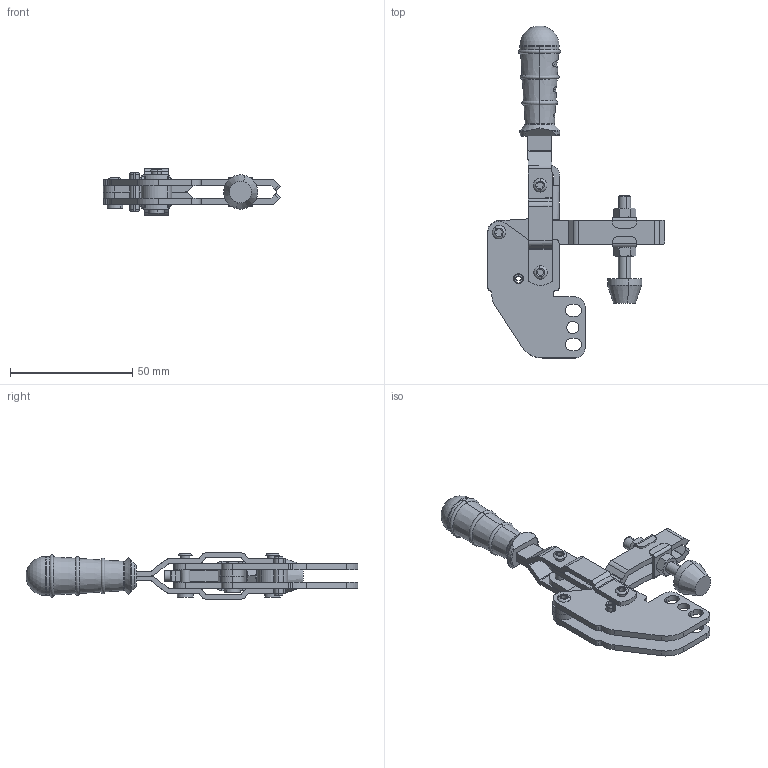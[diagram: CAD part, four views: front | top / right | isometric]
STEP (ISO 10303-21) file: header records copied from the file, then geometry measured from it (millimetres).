
FILE_DESCRIPTION (( 'STEP AP203' ), '1' );
FILE_NAME ('1101_P.STEP', '2025-03-03T13:58:16', ( '' ), ( '' ), 'SwSTEP 2.0', 'SolidWorks 2025', '' );
FILE_SCHEMA (( 'CONFIG_CONTROL_DESIGN' ));
Length unit declared in the file: millimetre
Products named in the file (17): Mirror1101_A_G(GÖVDE)_Varsayılan; Ø7xØ4x10_B(BURÇ)_Varsayılan; 1101_BK(BASKI_KOLU)_Varsayılan; 1101_M(MAFSAL)_Varsayılan; Ø4x17_P(PERÇİN)_Varsayılan; 1101_HK(HAREKET_KOLU)_Varsayılan; Ø4x16_YP(YARIKLI_PİM)_Varsayılan; Ø12,5xØ7,5x5_LY(LAZER_YÜZÜK)_Varsayılan; Mirror1101_HK(HAREKET_KOLU)_Varsayılan; M5_S(SOMUN)_Varsayılan; M5_BP(BASKI_PABUCU)_Varsayılan; 1101_P; Mirror1101_BK(BASKI_KOLU)_Varsayılan; Ø4x12,5_P(PERÇİN)_Varsayılan; 1101_A_G(GÖVDE)_Varsayılan; C45_T(TUTAMAK)_Varsayılan; M5_P(PUL)_Varsayılan
Assembly tree (20 placements, depth 2):
  1101_P
    1101_A_G(GÖVDE)_Varsayılan
    1101_BK(BASKI_KOLU)_Varsayılan
    Mirror1101_BK(BASKI_KOLU)_Varsayılan
    1101_M(MAFSAL)_Varsayılan
    1101_HK(HAREKET_KOLU)_Varsayılan
    Ø7xØ4x10_B(BURÇ)_Varsayılan
    Ø12,5xØ7,5x5_LY(LAZER_YÜZÜK)_Varsayılan
    Mirror1101_A_G(GÖVDE)_Varsayılan
    Mirror1101_HK(HAREKET_KOLU)_Varsayılan
    M5_P(PUL)_Varsayılan  x2
    M5_BP(BASKI_PABUCU)_Varsayılan
    M5_S(SOMUN)_Varsayılan  x2
    Ø4x12,5_P(PERÇİN)_Varsayılan  x2
    Ø4x17_P(PERÇİN)_Varsayılan  x2
    Ø4x16_YP(YARIKLI_PİM)_Varsayılan
    C45_T(TUTAMAK)_Varsayılan
Bounding box: 72.58 x 135.89 x 19 mm (x, y, z)
Volume: 25453.4 mm3; surface area: 25694.6 mm2
Topology: 20 solids, 20 shells, 727 faces, 1866 edges, 1201 vertices
Faces by surface type: plane 376, cylinder 253, torus 50, cone 46, sphere 2
Entity records: 19987 total; most frequent: CARTESIAN_POINT 3429, DIRECTION 3212, ORIENTED_EDGE 2976, EDGE_CURVE 1488, AXIS2_PLACEMENT_3D 1168, VERTEX_POINT 963, VECTOR 876, LINE 876
